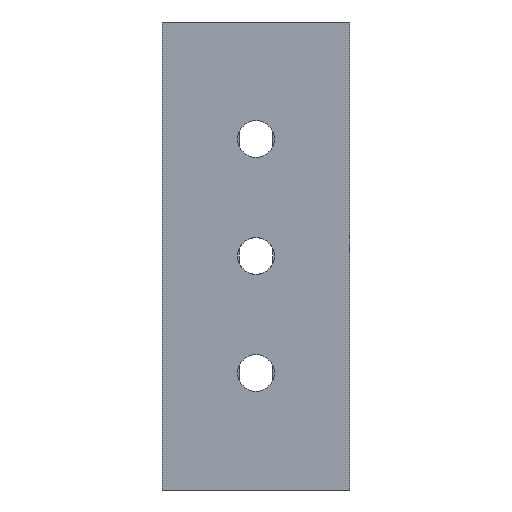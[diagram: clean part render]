
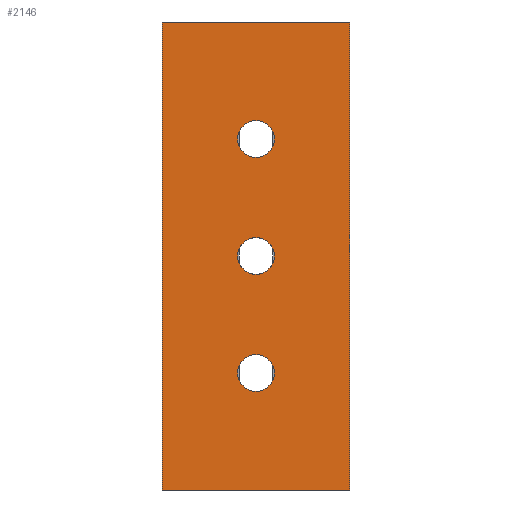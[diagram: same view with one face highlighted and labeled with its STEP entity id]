
A CAD part, front view. The second image highlights one B-rep face of the part: STEP entity #2146.
In plain terms, the highlighted planar face has unit normal (0, -1, 0).
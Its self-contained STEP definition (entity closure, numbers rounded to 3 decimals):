
#244=FACE_BOUND('',#440,.T.);
#245=FACE_BOUND('',#441,.T.);
#246=FACE_BOUND('',#442,.T.);
#253=CIRCLE('',#2238,3.15);
#257=CIRCLE('',#2243,3.15);
#264=CIRCLE('',#2251,3.15);
#343=FACE_OUTER_BOUND('',#439,.T.);
#439=EDGE_LOOP('',(#1878,#1879,#1880,#1881));
#440=EDGE_LOOP('',(#1882));
#441=EDGE_LOOP('',(#1883));
#442=EDGE_LOOP('',(#1884));
#665=LINE('',#3388,#920);
#667=LINE('',#3392,#922);
#671=LINE('',#3399,#926);
#672=LINE('',#3401,#927);
#920=VECTOR('',#2762,10.);
#922=VECTOR('',#2766,10.);
#926=VECTOR('',#2774,10.);
#927=VECTOR('',#2777,10.);
#1025=VERTEX_POINT('',#3084);
#1031=VERTEX_POINT('',#3099);
#1042=VERTEX_POINT('',#3124);
#1120=VERTEX_POINT('',#3385);
#1121=VERTEX_POINT('',#3387);
#1122=VERTEX_POINT('',#3391);
#1123=VERTEX_POINT('',#3397);
#1224=EDGE_CURVE('',#1025,#1025,#253,.T.);
#1232=EDGE_CURVE('',#1031,#1031,#257,.T.);
#1245=EDGE_CURVE('',#1042,#1042,#264,.T.);
#1379=EDGE_CURVE('',#1120,#1121,#665,.T.);
#1381=EDGE_CURVE('',#1122,#1120,#667,.T.);
#1385=EDGE_CURVE('',#1122,#1123,#671,.T.);
#1386=EDGE_CURVE('',#1123,#1121,#672,.T.);
#1878=ORIENTED_EDGE('',*,*,#1385,.T.);
#1879=ORIENTED_EDGE('',*,*,#1386,.T.);
#1880=ORIENTED_EDGE('',*,*,#1379,.F.);
#1881=ORIENTED_EDGE('',*,*,#1381,.F.);
#1882=ORIENTED_EDGE('',*,*,#1224,.T.);
#1883=ORIENTED_EDGE('',*,*,#1232,.T.);
#1884=ORIENTED_EDGE('',*,*,#1245,.T.);
#2054=PLANE('',#2308);
#2146=ADVANCED_FACE('',(#343,#244,#245,#246),#2054,.T.);
#2238=AXIS2_PLACEMENT_3D('',#3086,#2489,#2490);
#2243=AXIS2_PLACEMENT_3D('',#3101,#2503,#2504);
#2251=AXIS2_PLACEMENT_3D('',#3126,#2525,#2526);
#2308=AXIS2_PLACEMENT_3D('',#3400,#2775,#2776);
#2489=DIRECTION('center_axis',(0.,1.,0.));
#2490=DIRECTION('ref_axis',(1.,0.,0.));
#2503=DIRECTION('center_axis',(0.,1.,0.));
#2504=DIRECTION('ref_axis',(1.,0.,0.));
#2525=DIRECTION('center_axis',(0.,1.,0.));
#2526=DIRECTION('ref_axis',(1.,0.,0.));
#2762=DIRECTION('',(0.,0.,1.));
#2766=DIRECTION('',(-1.,0.,0.));
#2774=DIRECTION('',(0.,0.,1.));
#2775=DIRECTION('center_axis',(0.,-1.,0.));
#2776=DIRECTION('ref_axis',(1.,0.,0.));
#2777=DIRECTION('',(-1.,0.,0.));
#3084=CARTESIAN_POINT('',(-3.15,0.,0.));
#3086=CARTESIAN_POINT('Origin',(0.,0.,0.));
#3099=CARTESIAN_POINT('',(-3.15,0.,-20.));
#3101=CARTESIAN_POINT('Origin',(0.,0.,-20.));
#3124=CARTESIAN_POINT('',(-3.15,0.,20.));
#3126=CARTESIAN_POINT('Origin',(0.,0.,20.));
#3385=CARTESIAN_POINT('',(-16.,0.,-40.));
#3387=CARTESIAN_POINT('',(-16.,0.,40.));
#3388=CARTESIAN_POINT('',(-16.,0.,0.));
#3391=CARTESIAN_POINT('',(16.,0.,-40.));
#3392=CARTESIAN_POINT('',(0.,0.,-40.));
#3397=CARTESIAN_POINT('',(16.,0.,40.));
#3399=CARTESIAN_POINT('',(16.,0.,0.));
#3400=CARTESIAN_POINT('Origin',(0.,0.,0.));
#3401=CARTESIAN_POINT('',(0.,0.,40.));
